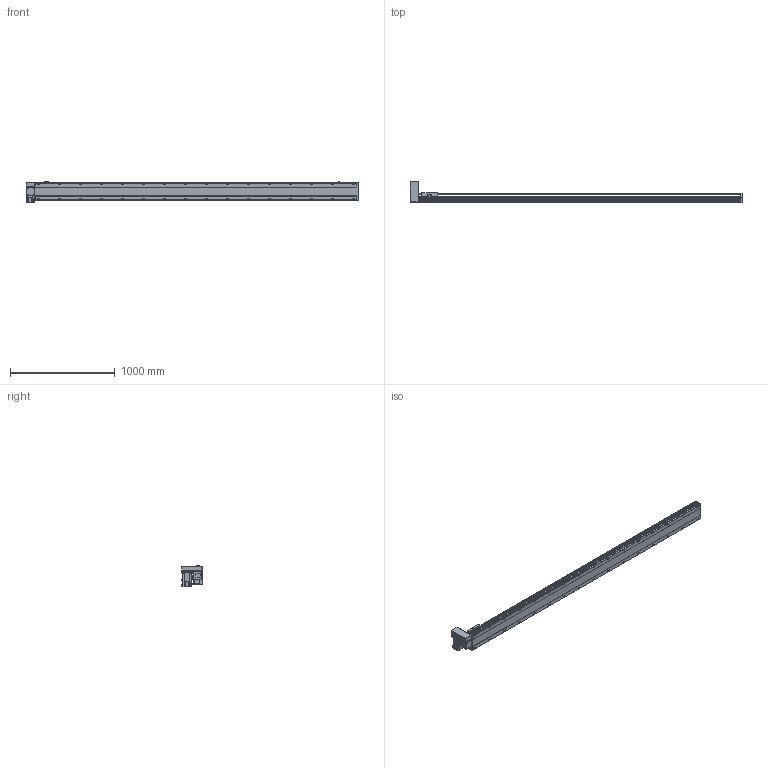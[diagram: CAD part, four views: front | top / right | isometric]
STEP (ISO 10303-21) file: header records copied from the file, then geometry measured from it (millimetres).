
FILE_DESCRIPTION( ( 'STEP AP214' ), '1' );
FILE_NAME( 'x:/temp/worker_5/temp/exporttempdir_3988_147_e0jOv/format_0/PBS170-P40-S2800-RU-T75-C1-N(0).stp', '2022-06-08T06:01:08', ( 'License CC BY-ND 4.0' ), ( 'CADENAS' ), ' ', 'PARTsolutions', ' ' );
FILE_SCHEMA( ( 'AUTOMOTIVE_DESIGN { 1 0 10303 214 1 1 1 1 }' ) );
Length unit declared in the file: millimetre
Products named in the file (7): PBS170-P40-S2800-RU-T75-C1-N(0); _PBS170-S2800()_body; _PBS170T-RU_motors; _T75-p1; _PBS170_sliser; _PBS170_plant; _PBS170_sensor
Assembly tree (8 placements, depth 2):
  PBS170-P40-S2800-RU-T75-C1-N(0)
    _PBS170-S2800()_body
    _PBS170T-RU_motors
    _T75-p1
    _PBS170_sliser
    _PBS170_plant
    _PBS170_sensor  x3
Bounding box: 3163 x 206 x 205.3 mm (x, y, z)
Volume: 23818205.2 mm3; surface area: 2986693.6 mm2
Topology: 8 solids, 8 shells, 1210 faces, 3195 edges, 2082 vertices
Faces by surface type: plane 735, cylinder 403, cone 62, sphere 8, torus 2
Full cylindrical faces by diameter (mm): 3.242 x4, 4 x2, 4.4 x4, 4.5 x6, 4.917 x4, 6 x9, 6.647 x40, 7 x2, 7.5 x4, 8 x8, 8.5 x32, 10 x4, 10.5 x32, 11 x2, 30 x2, 40 x1, 70 x1
Entity records: 44876 total; most frequent: CARTESIAN_POINT 7565, DIRECTION 5860, ORIENTED_EDGE 5508, EDGE_CURVE 2754, AXIS2_PLACEMENT_3D 2077, VERTEX_POINT 1922, LINE 1706, VECTOR 1706
